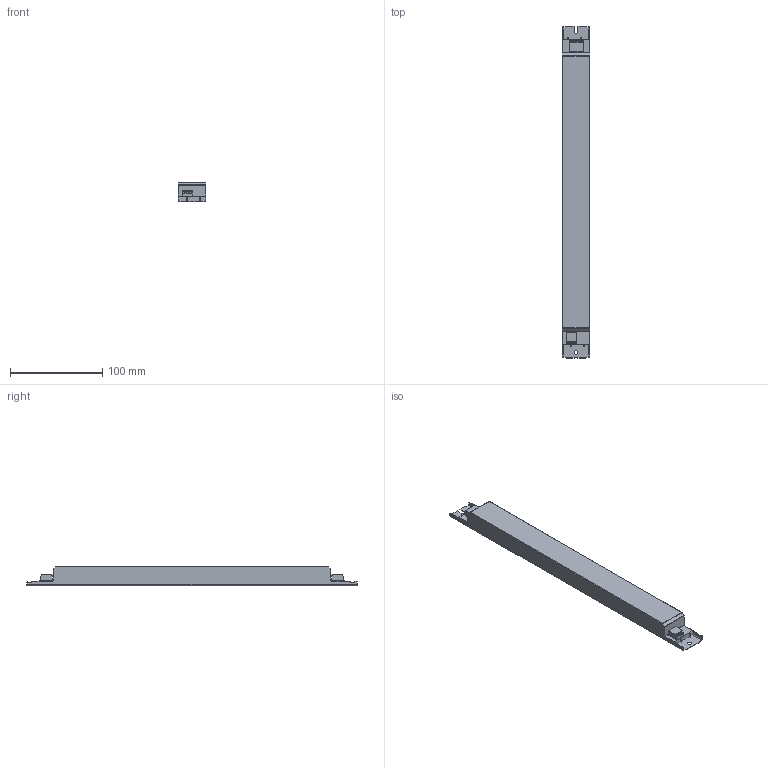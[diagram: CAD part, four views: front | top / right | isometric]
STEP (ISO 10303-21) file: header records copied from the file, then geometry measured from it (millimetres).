
FILE_DESCRIPTION((''),'2;1');
FILE_NAME('15008548Z_TOP360X30_3-4','2014-09-24T',('juergen.hrach'),(''),'PRO/ENGINEER BY PARAMETRIC TECHNOLOGY CORPORATION, 2014000','PRO/ENGINEER BY PARAMETRIC TECHNOLOGY CORPORATION, 2014000','');
FILE_SCHEMA(('AUTOMOTIVE_DESIGN { 1 0 10303 214 1 1 1 1 }'));
Length unit declared in the file: millimetre
Products named in the file (1): 15008548Z_TOP360X30_3-4
Bounding box: 30 x 360 x 21 mm (x, y, z)
Volume: 196307.5 mm3; surface area: 36125 mm2
Topology: 1 solids, 1 shells, 155 faces, 446 edges, 296 vertices
Faces by surface type: plane 84, cylinder 71
Entity records: 7006 total; most frequent: CARTESIAN_POINT 1120, ORIENTED_EDGE 892, DIRECTION 835, PRESENTATION_STYLE_ASSIGNMENT 449, STYLED_ITEM 447, CURVE_STYLE 446, EDGE_CURVE 446, VERTEX_POINT 296
